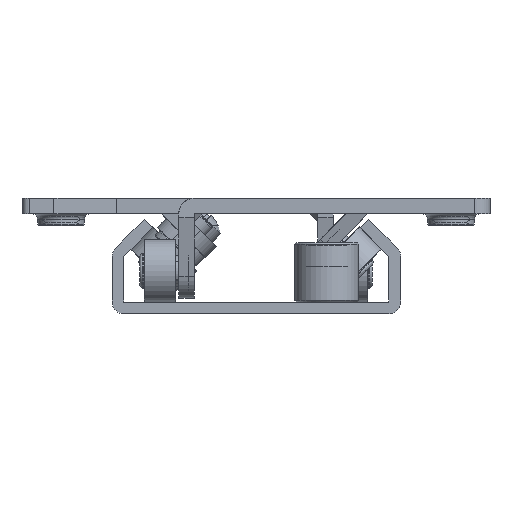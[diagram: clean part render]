
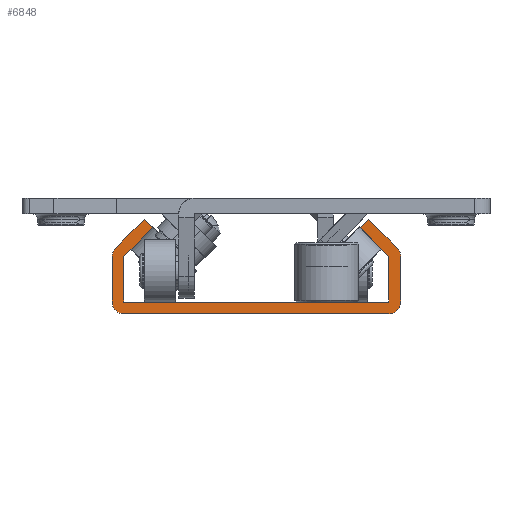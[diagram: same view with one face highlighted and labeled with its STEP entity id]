
A CAD part, left-side view. The second image highlights one B-rep face of the part: STEP entity #6848.
In plain terms, the highlighted planar face has unit normal (-1, 0, 0).
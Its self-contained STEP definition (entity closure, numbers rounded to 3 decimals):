
#6709=CARTESIAN_POINT('',(6.032,-161.972,-18.688));
#6710=VERTEX_POINT('',#6709);
#6711=CARTESIAN_POINT('',(6.032,-160.912,-17.627));
#6712=VERTEX_POINT('',#6711);
#6713=CARTESIAN_POINT('',(6.032,-161.972,-18.688));
#6714=DIRECTION('',(0.,0.707,0.707));
#6715=VECTOR('',#6714,1.);
#6716=LINE('',#6713,#6715);
#6717=EDGE_CURVE('',#6710,#6712,#6716,.T.);
#6718=ORIENTED_EDGE('',*,*,#6717,.T.);
#6719=CARTESIAN_POINT('',(6.032,-157.23,-21.309));
#6720=VERTEX_POINT('',#6719);
#6721=CARTESIAN_POINT('',(6.032,-157.23,-21.309));
#6722=DIRECTION('',(0.,-0.707,0.707));
#6723=VECTOR('',#6722,1.);
#6724=LINE('',#6721,#6723);
#6725=EDGE_CURVE('',#6720,#6712,#6724,.T.);
#6726=ORIENTED_EDGE('',*,*,#6725,.F.);
#6727=CARTESIAN_POINT('',(6.032,-156.79,-22.37));
#6728=VERTEX_POINT('',#6727);
#6729=CARTESIAN_POINT('',(6.032,-158.29,-22.37));
#6730=DIRECTION('',(1.,0.,0.));
#6731=DIRECTION('',(0.,0.,1.));
#6732=AXIS2_PLACEMENT_3D('',#6729,#6730,#6731);
#6733=CIRCLE('',#6732,1.5);
#6734=EDGE_CURVE('',#6728,#6720,#6733,.T.);
#6735=ORIENTED_EDGE('',*,*,#6734,.F.);
#6736=CARTESIAN_POINT('',(6.032,-156.79,-28.214));
#6737=VERTEX_POINT('',#6736);
#6738=CARTESIAN_POINT('',(6.032,-156.79,-28.214));
#6739=DIRECTION('',(0.,0.,1.));
#6740=VECTOR('',#6739,1.);
#6741=LINE('',#6738,#6740);
#6742=EDGE_CURVE('',#6737,#6728,#6741,.T.);
#6743=ORIENTED_EDGE('',*,*,#6742,.F.);
#6744=CARTESIAN_POINT('',(6.032,-158.29,-29.714));
#6745=VERTEX_POINT('',#6744);
#6746=CARTESIAN_POINT('',(6.032,-158.29,-28.214));
#6747=DIRECTION('',(1.,0.,0.));
#6748=DIRECTION('',(0.,1.,0.));
#6749=AXIS2_PLACEMENT_3D('',#6746,#6747,#6748);
#6750=CIRCLE('',#6749,1.5);
#6751=EDGE_CURVE('',#6745,#6737,#6750,.T.);
#6752=ORIENTED_EDGE('',*,*,#6751,.F.);
#6753=CARTESIAN_POINT('',(6.032,-192.29,-29.714));
#6754=VERTEX_POINT('',#6753);
#6755=CARTESIAN_POINT('',(6.032,-192.29,-29.714));
#6756=DIRECTION('',(0.,1.,0.));
#6757=VECTOR('',#6756,1.);
#6758=LINE('',#6755,#6757);
#6759=EDGE_CURVE('',#6754,#6745,#6758,.T.);
#6760=ORIENTED_EDGE('',*,*,#6759,.F.);
#6761=CARTESIAN_POINT('',(6.032,-193.79,-28.214));
#6762=VERTEX_POINT('',#6761);
#6763=CARTESIAN_POINT('',(6.032,-192.29,-28.214));
#6764=DIRECTION('',(1.,0.,0.));
#6765=DIRECTION('',(0.,1.,0.));
#6766=AXIS2_PLACEMENT_3D('',#6763,#6764,#6765);
#6767=CIRCLE('',#6766,1.5);
#6768=EDGE_CURVE('',#6762,#6754,#6767,.T.);
#6769=ORIENTED_EDGE('',*,*,#6768,.F.);
#6770=CARTESIAN_POINT('',(6.032,-193.79,-22.37));
#6771=VERTEX_POINT('',#6770);
#6772=CARTESIAN_POINT('',(6.032,-193.79,-22.37));
#6773=DIRECTION('',(0.,0.,-1.));
#6774=VECTOR('',#6773,1.);
#6775=LINE('',#6772,#6774);
#6776=EDGE_CURVE('',#6771,#6762,#6775,.T.);
#6777=ORIENTED_EDGE('',*,*,#6776,.F.);
#6778=CARTESIAN_POINT('',(6.032,-193.351,-21.309));
#6779=VERTEX_POINT('',#6778);
#6780=CARTESIAN_POINT('',(6.032,-192.29,-22.37));
#6781=DIRECTION('',(1.,0.,0.));
#6782=DIRECTION('',(0.,0.,1.));
#6783=AXIS2_PLACEMENT_3D('',#6780,#6781,#6782);
#6784=CIRCLE('',#6783,1.5);
#6785=EDGE_CURVE('',#6779,#6771,#6784,.T.);
#6786=ORIENTED_EDGE('',*,*,#6785,.F.);
#6787=CARTESIAN_POINT('',(6.032,-189.669,-17.627));
#6788=VERTEX_POINT('',#6787);
#6789=CARTESIAN_POINT('',(6.032,-189.669,-17.627));
#6790=DIRECTION('',(0.,-0.707,-0.707));
#6791=VECTOR('',#6790,1.);
#6792=LINE('',#6789,#6791);
#6793=EDGE_CURVE('',#6788,#6779,#6792,.T.);
#6794=ORIENTED_EDGE('',*,*,#6793,.F.);
#6795=CARTESIAN_POINT('',(6.032,-188.608,-18.688));
#6796=VERTEX_POINT('',#6795);
#6797=CARTESIAN_POINT('',(6.032,-189.669,-17.627));
#6798=DIRECTION('',(0.,0.707,-0.707));
#6799=VECTOR('',#6798,1.);
#6800=LINE('',#6797,#6799);
#6801=EDGE_CURVE('',#6788,#6796,#6800,.T.);
#6802=ORIENTED_EDGE('',*,*,#6801,.T.);
#6803=CARTESIAN_POINT('',(6.032,-192.29,-22.37));
#6804=VERTEX_POINT('',#6803);
#6805=CARTESIAN_POINT('',(6.032,-192.29,-22.37));
#6806=DIRECTION('',(0.,0.707,0.707));
#6807=VECTOR('',#6806,1.);
#6808=LINE('',#6805,#6807);
#6809=EDGE_CURVE('',#6804,#6796,#6808,.T.);
#6810=ORIENTED_EDGE('',*,*,#6809,.F.);
#6811=CARTESIAN_POINT('',(6.032,-192.29,-28.214));
#6812=VERTEX_POINT('',#6811);
#6813=CARTESIAN_POINT('',(6.032,-192.29,-28.214));
#6814=DIRECTION('',(0.,0.,1.));
#6815=VECTOR('',#6814,1.);
#6816=LINE('',#6813,#6815);
#6817=EDGE_CURVE('',#6812,#6804,#6816,.T.);
#6818=ORIENTED_EDGE('',*,*,#6817,.F.);
#6819=CARTESIAN_POINT('',(6.032,-158.29,-28.214));
#6820=VERTEX_POINT('',#6819);
#6821=CARTESIAN_POINT('',(6.032,-158.29,-28.214));
#6822=DIRECTION('',(0.,-1.,0.));
#6823=VECTOR('',#6822,1.);
#6824=LINE('',#6821,#6823);
#6825=EDGE_CURVE('',#6820,#6812,#6824,.T.);
#6826=ORIENTED_EDGE('',*,*,#6825,.F.);
#6827=CARTESIAN_POINT('',(6.032,-158.29,-22.37));
#6828=VERTEX_POINT('',#6827);
#6829=CARTESIAN_POINT('',(6.032,-158.29,-22.37));
#6830=DIRECTION('',(0.,0.,-1.));
#6831=VECTOR('',#6830,1.);
#6832=LINE('',#6829,#6831);
#6833=EDGE_CURVE('',#6828,#6820,#6832,.T.);
#6834=ORIENTED_EDGE('',*,*,#6833,.F.);
#6835=CARTESIAN_POINT('',(6.032,-161.972,-18.688));
#6836=DIRECTION('',(0.,0.707,-0.707));
#6837=VECTOR('',#6836,1.);
#6838=LINE('',#6835,#6837);
#6839=EDGE_CURVE('',#6710,#6828,#6838,.T.);
#6840=ORIENTED_EDGE('',*,*,#6839,.F.);
#6841=EDGE_LOOP('',(#6718,#6726,#6735,#6743,#6752,#6760,#6769,#6777,#6786,#6794,#6802,#6810,#6818,#6826,#6834,#6840));
#6842=FACE_OUTER_BOUND('',#6841,.T.);
#6843=CARTESIAN_POINT('',(6.032,-161.442,-18.157));
#6844=DIRECTION('',(-1.,0.,0.));
#6845=DIRECTION('',(0.,1.,0.));
#6846=AXIS2_PLACEMENT_3D('',#6843,#6844,#6845);
#6847=PLANE('',#6846);
#6848=ADVANCED_FACE('',(#6842),#6847,.T.);
